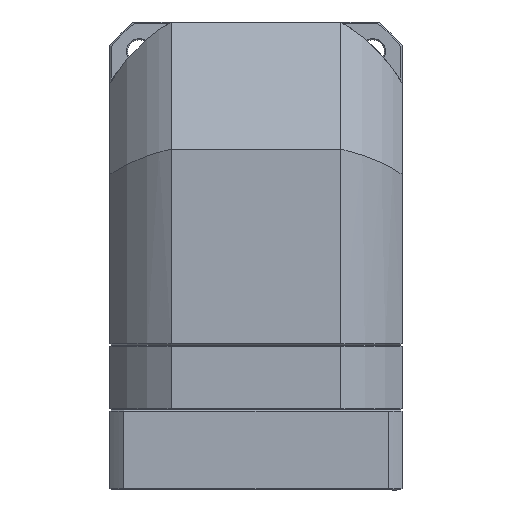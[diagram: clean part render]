
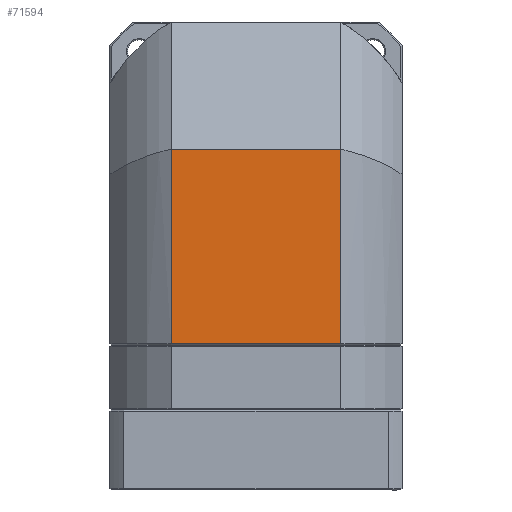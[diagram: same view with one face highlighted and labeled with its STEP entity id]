
A CAD part, front view. The second image highlights one B-rep face of the part: STEP entity #71594.
In plain terms, the highlighted planar face has unit normal (0, 1, 0).
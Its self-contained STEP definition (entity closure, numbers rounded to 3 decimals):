
#4533 = FACE_OUTER_BOUND ( 'NONE', #10646, .T. ) ;
#8158 = DIRECTION ( 'NONE',  ( 1., 0., 0. ) ) ;
#10646 = EDGE_LOOP ( 'NONE', ( #12869, #23120, #39322, #16047 ) ) ;
#12869 = ORIENTED_EDGE ( 'NONE', *, *, #48350, .F. ) ;
#14399 = EDGE_CURVE ( 'NONE', #32738, #85864, #89375, .T. ) ;
#16047 = ORIENTED_EDGE ( 'NONE', *, *, #28915, .T. ) ;
#16662 = CARTESIAN_POINT ( 'NONE',  ( -33.407, -216.611, 7.5 ) ) ;
#18630 = CARTESIAN_POINT ( 'NONE',  ( 33.407, -216.611, -69.2 ) ) ;
#23120 = ORIENTED_EDGE ( 'NONE', *, *, #14399, .F. ) ;
#27312 = LINE ( 'NONE', #61181, #80294 ) ;
#28915 = EDGE_CURVE ( 'NONE', #84822, #51482, #35803, .T. ) ;
#32738 = VERTEX_POINT ( 'NONE', #35673 ) ;
#33585 = DIRECTION ( 'NONE',  ( 0., -1., 0. ) ) ;
#35673 = CARTESIAN_POINT ( 'NONE',  ( -33.407, -216.611, -69.2 ) ) ;
#35803 = LINE ( 'NONE', #64595, #52075 ) ;
#39322 = ORIENTED_EDGE ( 'NONE', *, *, #41965, .T. ) ;
#40163 = LINE ( 'NONE', #48414, #56334 ) ;
#40979 = CARTESIAN_POINT ( 'NONE',  ( 33.407, -216.611, 7.5 ) ) ;
#41761 = DIRECTION ( 'NONE',  ( 0., 0., 1. ) ) ;
#41965 = EDGE_CURVE ( 'NONE', #32738, #84822, #40163, .T. ) ;
#45444 = CARTESIAN_POINT ( 'NONE',  ( 0., -216.611, -69.2 ) ) ;
#47261 = PLANE ( 'NONE',  #61085 ) ;
#48350 = EDGE_CURVE ( 'NONE', #85864, #51482, #27312, .T. ) ;
#48414 = CARTESIAN_POINT ( 'NONE',  ( -33.407, -216.611, -30.62 ) ) ;
#51482 = VERTEX_POINT ( 'NONE', #40979 ) ;
#52075 = VECTOR ( 'NONE', #8158, 1000. ) ;
#56334 = VECTOR ( 'NONE', #41761, 1000. ) ;
#61085 = AXIS2_PLACEMENT_3D ( 'NONE', #74918, #33585, #81805 ) ;
#61181 = CARTESIAN_POINT ( 'NONE',  ( 33.407, -216.611, -30.85 ) ) ;
#64595 = CARTESIAN_POINT ( 'NONE',  ( 0., -216.611, 7.5 ) ) ;
#68062 = DIRECTION ( 'NONE',  ( 0., 0., 1. ) ) ;
#71077 = VECTOR ( 'NONE', #86619, 1000. ) ;
#71594 = ADVANCED_FACE ( 'NONE', ( #4533 ), #47261, .F. ) ;
#74918 = CARTESIAN_POINT ( 'NONE',  ( -33.407, -216.611, -69.2 ) ) ;
#80294 = VECTOR ( 'NONE', #68062, 1000. ) ;
#81805 = DIRECTION ( 'NONE',  ( 1., 0., 0. ) ) ;
#84822 = VERTEX_POINT ( 'NONE', #16662 ) ;
#85864 = VERTEX_POINT ( 'NONE', #18630 ) ;
#86619 = DIRECTION ( 'NONE',  ( 1., 0., 0. ) ) ;
#89375 = LINE ( 'NONE', #45444, #71077 ) ;
